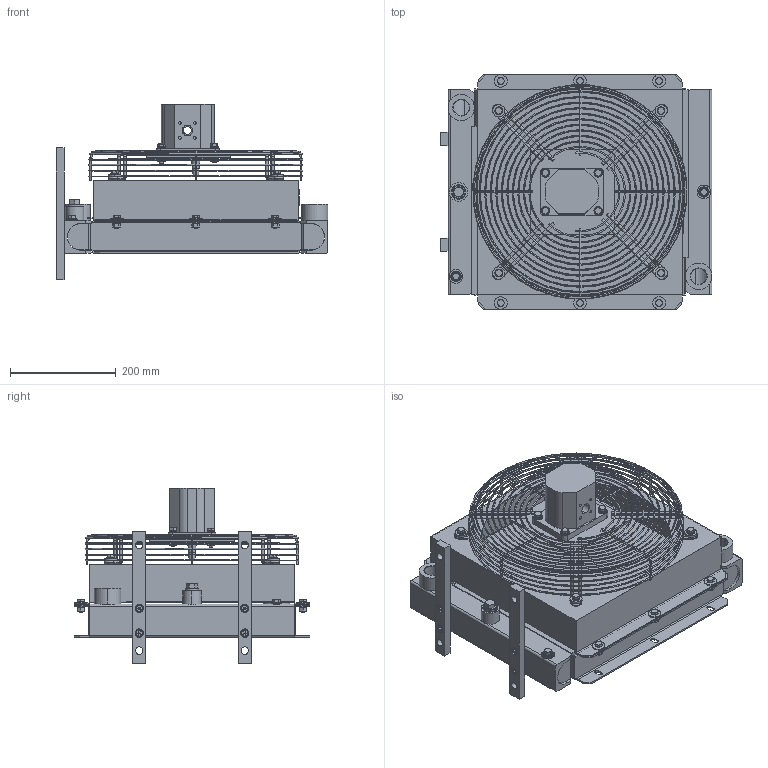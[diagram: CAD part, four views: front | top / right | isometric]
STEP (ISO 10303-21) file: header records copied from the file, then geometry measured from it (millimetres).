
FILE_DESCRIPTION((' '),'1');
FILE_NAME('5203.204.0000.step','2007-09-12 T',(' '),(' '),'STEP Interface v1.0 by CT CoreTechnologie','3D_Evolution v1.0 by CT CoreTechnologie',' ');
FILE_SCHEMA(('AUTOMOTIVE_DESIGN_CC2 { 1 2 10303 214 -1 1 5 2 }'));
Length unit declared in the file: millimetre
Products named in the file (83): 5203_204_0000; Sechskantschraube_ISO_4017-M8x30-8_8-A3B; 603804; 8407_470_00441; 8407_470_00442; 8402_415_00001; 8402_415_00002; 8402_415_00003; 8402_415_00004; 8402_415_00005; 8402_415_00006; 8402_415_00007; 8402_415_00008; 8402_415_00009; 8402_415_000010; 8402_415_000011; 8402_415_000012; 8402_415_000013; 8402_415_000014; 8402_415_000015; 8402_415_000016; 8402_415_000017; 8402_415_000018; 8402_415_000019; 8402_415_000020; 8402_415_000021; 8402_415_000022; 8402_415_000023; 8402_415_000024; 8402_415_000025; 8402_415_000026; 8402_415_000027; 6038281; 6038282; 6038283; 6038284; Sechskantschraube_ISO_4017-M8x20-8_8-A3B; 6030041; 6030042; 6030043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
Assembly tree (129 placements, depth 4):
  5203_204_0000
    Sechskantschraube_ISO_4017-M8x30-8_8-A3B  x4
    603804  x8
    8407_470_00441
    8407_470_00442
    8402_415_00001
    8402_415_00002
    8402_415_00003
    8402_415_00004
    8402_415_00005
    8402_415_00006
    8402_415_00007
    8402_415_00008
    8402_415_00009
    8402_415_000010
    8402_415_000011
    8402_415_000012
    8402_415_000013
    8402_415_000014
    8402_415_000015
    8402_415_000016
    8402_415_000017
    8402_415_000018
    8402_415_000019
    8402_415_000020
    8402_415_000021
    8402_415_000022
    8402_415_000023
    8402_415_000024
    8402_415_000025
    8402_415_000026
    8402_415_000027
    6038281
    6038282
    6038283
    6038284
    Sechskantschraube_ISO_4017-M8x20-8_8-A3B  x10
    6030041
    6030042
    6030043
    6030044
    6030045
    6030046
    6030047
    6030048
    6030049
    60300410
    603857  x12
    5203_203_40101
      m81
      m82
      m83
      m84
      5203_203_40102
    6004031
    6004032
    6004033
    6004034
    603504  x18
    5202_202_12101
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Bounding box: 515 x 445.89 x 332.6 mm (x, y, z)
Volume: 12453403.2 mm3; surface area: 1648833.2 mm2
Topology: 124 solids, 124 shells, 3252 faces, 7957 edges, 5132 vertices
Faces by surface type: plane 1843, cylinder 565, bspline 316, cone 270, torus 258
Entity records: 117517 total; most frequent: CARTESIAN_POINT 28235, ORIENTED_EDGE 13486, DIRECTION 12390, EDGE_CURVE 6743, VECTOR 4512, LINE 4512, VERTEX_POINT 4362, AXIS2_PLACEMENT_3D 3939
